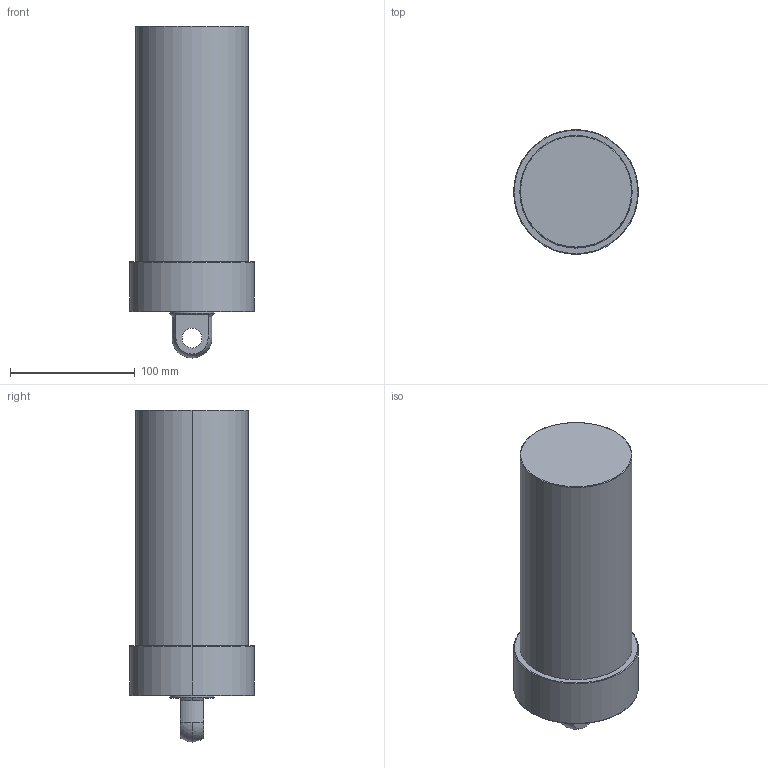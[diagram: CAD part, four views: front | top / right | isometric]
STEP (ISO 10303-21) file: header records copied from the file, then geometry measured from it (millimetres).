
FILE_DESCRIPTION (( 'STEP AP203' ), '1' );
FILE_NAME ('CLLU-090GP-145.STEP', '2020-01-15T01:50:50', ( '' ), ( '' ), 'SwSTEP 2.0', 'SolidWorks 2015', '' );
FILE_SCHEMA (( 'CONFIG_CONTROL_DESIGN' ));
Length unit declared in the file: millimetre
Products named in the file (1): CLLU-090GP-145
Bounding box: 100 x 100 x 266 mm (x, y, z)
Volume: 1525528.2 mm3; surface area: 87893.8 mm2
Topology: 1 solids, 1 shells, 58 faces, 131 edges, 75 vertices
Faces by surface type: cylinder 23, cone 18, plane 9, torus 6, sphere 2
Entity records: 1658 total; most frequent: DIRECTION 311, CARTESIAN_POINT 269, ORIENTED_EDGE 246, AXIS2_PLACEMENT_3D 133, EDGE_CURVE 123, VERTEX_POINT 75, CIRCLE 74, EDGE_LOOP 68
